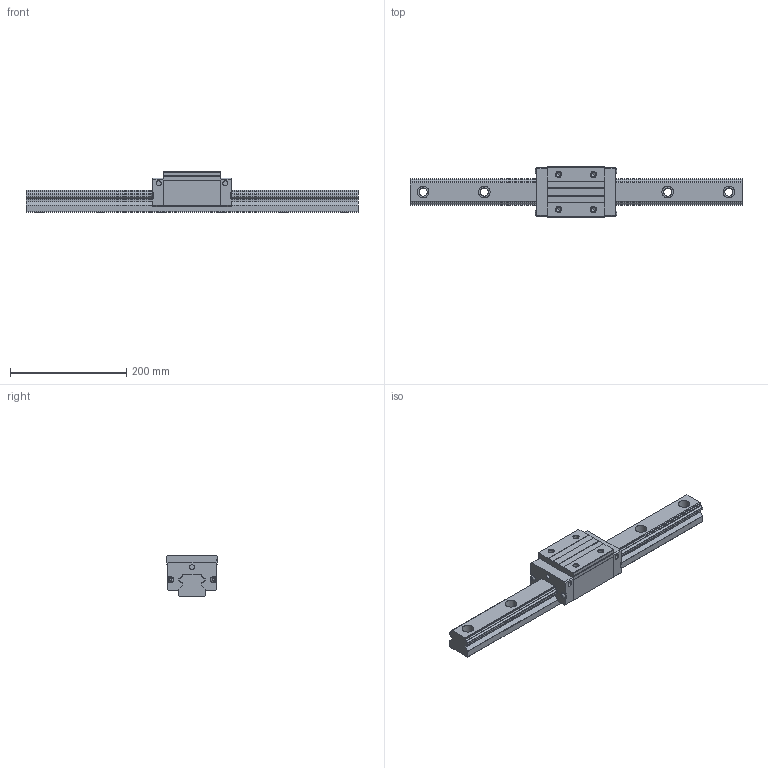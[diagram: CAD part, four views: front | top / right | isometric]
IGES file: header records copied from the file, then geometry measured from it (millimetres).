
Start section: START RECORD GO HERE.
Global section: file name: SBG45_SL.igs; native system: IBM CATIA IGES - CATIA Version 5 Release 16 ; preprocessor: CATIA Version 5 Release 16 ; author: mycom; organization: RD03; date: 20070228.145140; units: millimetre
Bounding box: 570 x 86 x 70 mm (x, y, z)
Surface area: 180837.5 mm2 (no closed solid volume)
Topology: 0 solids, 0 shells, 294 faces, 1580 edges, 1568 vertices
Faces by surface type: revolution 165, plane 129
